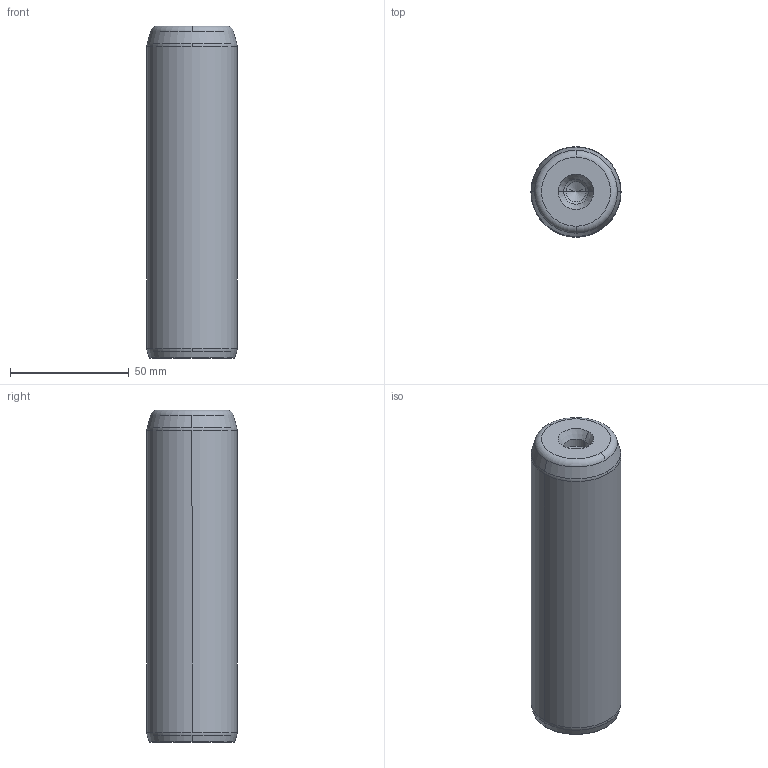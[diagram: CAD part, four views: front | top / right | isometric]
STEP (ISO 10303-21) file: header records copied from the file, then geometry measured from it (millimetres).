
FILE_DESCRIPTION((''),'2;1');
FILE_NAME('P10_038_140.stp','2008-12-23T15:13:50',(''),(''),'Mechanical Desktop 2009','Mechanical Desktop 2009',', , ');
FILE_SCHEMA(('CONFIG_CONTROL_DESIGN'));
Length unit declared in the file: millimetre
Products named in the file (5): Product; ProductAA; blmdl1; ProductA; blmdl1A
Assembly tree (2 placements, depth 3):
  Product
    ProductAA
      blmdl1
  ProductA
  blmdl1A
Bounding box: 38 x 38 x 140 mm (x, y, z)
Volume: 155342.9 mm3; surface area: 19333.6 mm2
Topology: 1 solids, 1 shells, 26 faces, 66 edges, 41 vertices
Faces by surface type: cone 10, torus 8, cylinder 6, plane 2
Entity records: 1012 total; most frequent: DIRECTION 170, CARTESIAN_POINT 134, ORIENTED_EDGE 128, AXIS2_PLACEMENT_3D 77, EDGE_CURVE 64, CIRCLE 48, VERTEX_POINT 41, EDGE_LOOP 27
